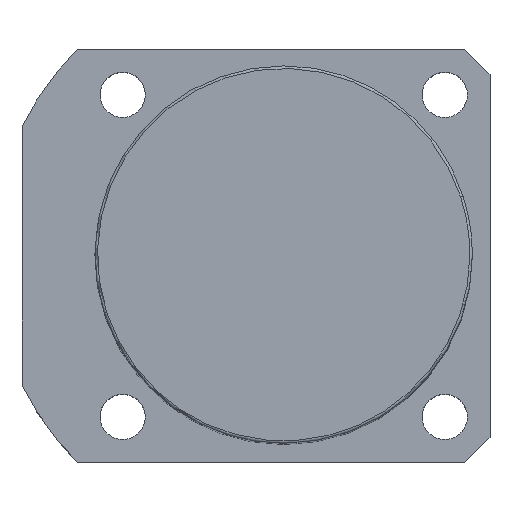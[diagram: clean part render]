
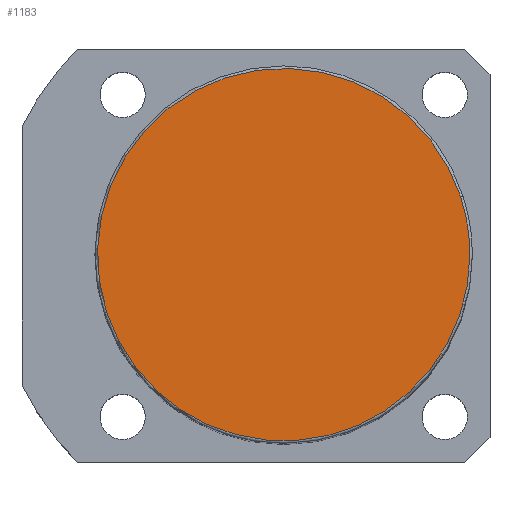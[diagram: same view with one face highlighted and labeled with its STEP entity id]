
A CAD part, top view. The second image highlights one B-rep face of the part: STEP entity #1183.
In plain terms, the highlighted planar face has unit normal (0, 0, 1).
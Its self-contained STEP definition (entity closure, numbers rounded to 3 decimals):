
#1149=CARTESIAN_POINT('',(37.0,0.0,158.0));
#1150=VERTEX_POINT('',#1149);
#1151=CARTESIAN_POINT('',(35.189,11.434,158.0));
#1152=VERTEX_POINT('',#1151);
#1153=CARTESIAN_POINT('',(0.0,0.0,158.0));
#1154=DIRECTION('',(0.0,0.0,1.0));
#1155=DIRECTION('',(1.0,0.0,0.0));
#1156=AXIS2_PLACEMENT_3D('',#1153,#1154,#1155);
#1157=CIRCLE('',#1156,37.0);
#1158=EDGE_CURVE('no 1736',#1150,#1152,#1157,.T.);
#1159=ORIENTED_EDGE('',*,*,#1158,.T.);
#1160=CARTESIAN_POINT('',(-35.189,-11.434,158.0));
#1161=VERTEX_POINT('',#1160);
#1162=CARTESIAN_POINT('',(0.0,0.0,158.0));
#1163=DIRECTION('',(0.0,0.0,1.0));
#1164=DIRECTION('',(1.0,0.0,0.0));
#1165=AXIS2_PLACEMENT_3D('',#1162,#1163,#1164);
#1166=CIRCLE('',#1165,37.0);
#1167=EDGE_CURVE('no 1742',#1152,#1161,#1166,.T.);
#1168=ORIENTED_EDGE('',*,*,#1167,.T.);
#1169=CARTESIAN_POINT('',(0.0,0.0,158.0));
#1170=DIRECTION('',(0.0,0.0,1.0));
#1171=DIRECTION('',(1.0,0.0,0.0));
#1172=AXIS2_PLACEMENT_3D('',#1169,#1170,#1171);
#1173=CIRCLE('',#1172,37.0);
#1174=EDGE_CURVE('no 1746',#1161,#1150,#1173,.T.);
#1175=ORIENTED_EDGE('',*,*,#1174,.T.);
#1176=EDGE_LOOP('',(#1159,#1168,#1175));
#1177=FACE_OUTER_BOUND('',#1176,.T.);
#1178=CARTESIAN_POINT('',(0.0,0.0,158.0));
#1179=DIRECTION('',(0.0,0.0,1.0));
#1180=DIRECTION('',(1.0,0.0,0.0));
#1181=AXIS2_PLACEMENT_3D('',#1178,#1179,#1180);
#1182=PLANE('',#1181);
#1183=ADVANCED_FACE('no 1727',(#1177),#1182,.T.);
